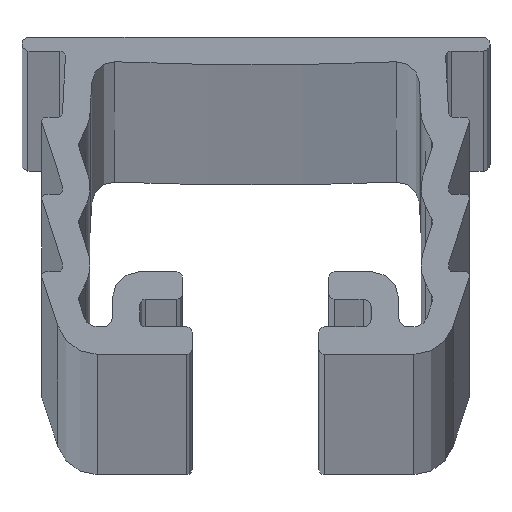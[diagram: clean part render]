
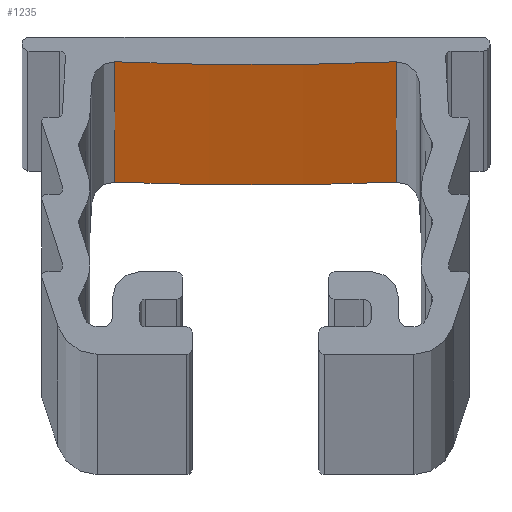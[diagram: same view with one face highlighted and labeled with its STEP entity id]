
A CAD part, top view. The second image highlights one B-rep face of the part: STEP entity #1235.
In plain terms, the highlighted cylindrical face has radius 120 mm (diameter 240 mm), a partial arc.
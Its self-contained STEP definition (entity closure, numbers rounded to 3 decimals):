
#101 = DIRECTION ( 'NONE',  ( 0., 0., 1. ) ) ;
#125 = CARTESIAN_POINT ( 'NONE',  ( 5.108, -0.891, 0. ) ) ;
#217 = EDGE_LOOP ( 'NONE', ( #1616, #2334, #1101, #809 ) ) ;
#247 = VERTEX_POINT ( 'NONE', #679 ) ;
#326 = DIRECTION ( 'NONE',  ( 0., 0., 1. ) ) ;
#413 = DIRECTION ( 'NONE',  ( 0., 0., 1. ) ) ;
#463 = AXIS2_PLACEMENT_3D ( 'NONE', #2147, #1193, #1814 ) ;
#474 = CARTESIAN_POINT ( 'NONE',  ( 5.108, -0.891, -2500. ) ) ;
#679 = CARTESIAN_POINT ( 'NONE',  ( -5.108, -0.891, 0. ) ) ;
#725 = DIRECTION ( 'NONE',  ( 1., 0., 0. ) ) ;
#809 = ORIENTED_EDGE ( 'NONE', *, *, #2870, .T. ) ;
#944 = LINE ( 'NONE', #1256, #4088 ) ;
#1101 = ORIENTED_EDGE ( 'NONE', *, *, #3773, .T. ) ;
#1193 = DIRECTION ( 'NONE',  ( 0., 0., 1. ) ) ;
#1235 = ADVANCED_FACE ( 'NONE', ( #3983 ), #2322, .T. ) ;
#1256 = CARTESIAN_POINT ( 'NONE',  ( -5.108, -0.891, -2500. ) ) ;
#1323 = VERTEX_POINT ( 'NONE', #125 ) ;
#1374 = DIRECTION ( 'NONE',  ( 0., 0., 1. ) ) ;
#1550 = AXIS2_PLACEMENT_3D ( 'NONE', #2932, #413, #725 ) ;
#1616 = ORIENTED_EDGE ( 'NONE', *, *, #2465, .F. ) ;
#1700 = AXIS2_PLACEMENT_3D ( 'NONE', #2671, #1374, #1980 ) ;
#1814 = DIRECTION ( 'NONE',  ( 1., 0., 0. ) ) ;
#1934 = EDGE_CURVE ( 'NONE', #3487, #247, #944, .T. ) ;
#1980 = DIRECTION ( 'NONE',  ( 1., 0., 0. ) ) ;
#2147 = CARTESIAN_POINT ( 'NONE',  ( 0., 119., -2500. ) ) ;
#2244 = CIRCLE ( 'NONE', #463, 120. ) ;
#2322 = CYLINDRICAL_SURFACE ( 'NONE', #1550, 120. ) ;
#2334 = ORIENTED_EDGE ( 'NONE', *, *, #1934, .F. ) ;
#2339 = VERTEX_POINT ( 'NONE', #3134 ) ;
#2465 = EDGE_CURVE ( 'NONE', #247, #1323, #3041, .T. ) ;
#2671 = CARTESIAN_POINT ( 'NONE',  ( 0., 119., 0. ) ) ;
#2784 = VECTOR ( 'NONE', #101, 1000. ) ;
#2870 = EDGE_CURVE ( 'NONE', #2339, #1323, #2930, .T. ) ;
#2930 = LINE ( 'NONE', #474, #2784 ) ;
#2932 = CARTESIAN_POINT ( 'NONE',  ( 0., 119., -2500. ) ) ;
#3041 = CIRCLE ( 'NONE', #1700, 120. ) ;
#3134 = CARTESIAN_POINT ( 'NONE',  ( 5.108, -0.891, -2500. ) ) ;
#3487 = VERTEX_POINT ( 'NONE', #4090 ) ;
#3773 = EDGE_CURVE ( 'NONE', #3487, #2339, #2244, .T. ) ;
#3983 = FACE_OUTER_BOUND ( 'NONE', #217, .T. ) ;
#4088 = VECTOR ( 'NONE', #326, 1000. ) ;
#4090 = CARTESIAN_POINT ( 'NONE',  ( -5.108, -0.891, -2500. ) ) ;
